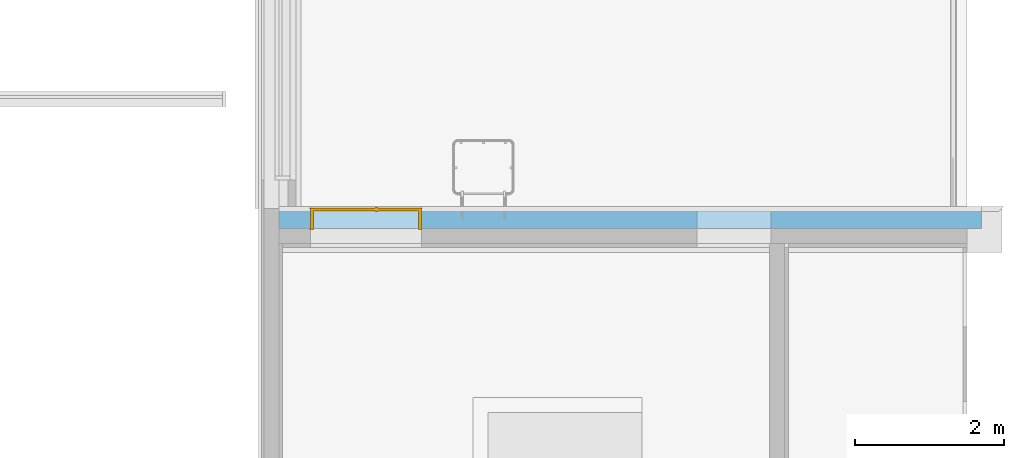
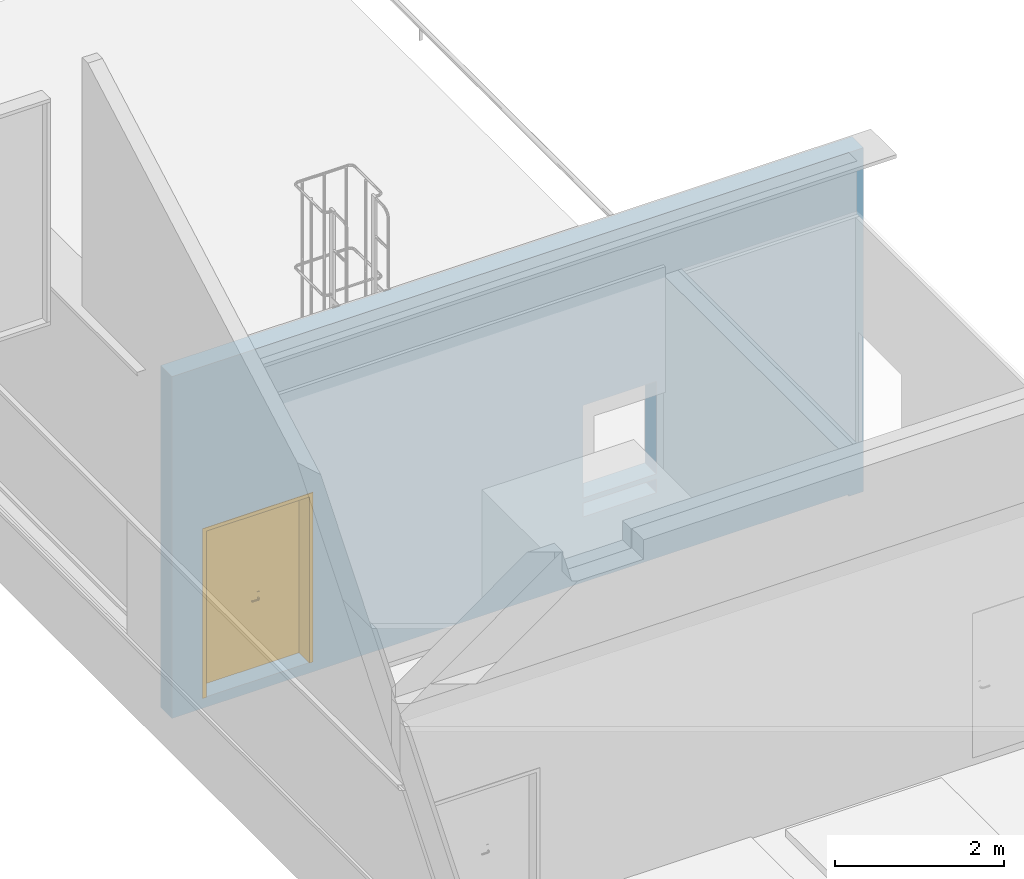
# One storey, part 39 of 44: 1 door, 4 openings, plus 1 element that does not belong to this part.
"""IFC2X3 building model written with IfcOpenShell, lengths in centimetres."""

import ifcopenshell
import ifcopenshell.guid

model = None  # the IFC model being written
_history = None  # IfcOwnerHistory: only IFC2X3 demands one
_inside = {}  # id of a spatial element -> (the spatial element, [elements in it])
_under = {}  # id of a project, library or spatial element -> (it, [spatial elements below it])
_declared = {}  # id of a project -> (the project, [libraries it declares])
_typed = {}  # id of a type object -> (the type object, [elements of that type])
_made_of = {}  # id of a material, layer set ... -> (it, [elements and type objects made of it])


def new_model(schema):
    """Start an empty IFC model of exactly this schema.

    Asked for "IFC4X3", IfcOpenShell would pick the latest addendum, in which some entities
    have other attributes; the version numbers below select the first issue.
    IFC2X3 requires an IfcOwnerHistory on every rooted entity: one is made here for all.
    """
    global model, _history
    if schema == "IFC4X3":
        model = ifcopenshell.file(schema_version=(4, 3, 0, 0))
    else:
        model = ifcopenshell.file(schema=schema)
    _inside.clear()
    _under.clear()
    _declared.clear()
    _typed.clear()
    _made_of.clear()
    _history = None
    if model.schema == "IFC2X3":
        org = make("IfcOrganization", Name="unknown")
        user = make(
            "IfcPersonAndOrganization",
            ThePerson=make("IfcPerson", FamilyName="unknown"),
            TheOrganization=org,
        )
        app = make(
            "IfcApplication",
            ApplicationDeveloper=org,
            Version="unknown",
            ApplicationFullName="unknown",
            ApplicationIdentifier="unknown",
        )
        _history = make(
            "IfcOwnerHistory",
            OwningUser=user,
            OwningApplication=app,
            ChangeAction="ADDED",
            CreationDate=0,
        )
    return model


def make(cls, **values):
    """One entity of the class cls with the attributes given. An attribute that is None is left unset."""
    return model.create_entity(
        cls, **{name: value for name, value in values.items() if value is not None}
    )


def entity(cls, *values):
    """Any entity or typed value of the class cls, its attributes in the order of the schema. None: left unset."""
    e = model.create_entity(cls)
    for i, value in enumerate(values):
        if value is not None:
            e[i] = value
    return e


def rooted(cls, **values):
    """An entity with a GlobalId (a new one), such as an element, a storey or a relation."""
    return make(cls, GlobalId=ifcopenshell.guid.new(), OwnerHistory=_history, **values)


def si_unit(unit_type, name, prefix=None):
    """IfcSIUnit, for example si_unit("LENGTHUNIT", "METRE", prefix="MILLI")."""
    return make("IfcSIUnit", UnitType=unit_type, Prefix=prefix, Name=name)


def converted_unit(unit_type, name, factor, base, dimensions=None, offset=None):
    """IfcConversionBasedUnit, such as the inch: factor (a typed value) times the base unit."""
    return make(
        "IfcConversionBasedUnit"
        if offset is None
        else "IfcConversionBasedUnitWithOffset",
        ConversionOffset=offset,
        Dimensions=None
        if dimensions is None
        else entity("IfcDimensionalExponents", *dimensions),
        UnitType=unit_type,
        Name=name,
        ConversionFactor=make(
            "IfcMeasureWithUnit", ValueComponent=factor, UnitComponent=base
        ),
    )


def derived_unit(unit_type, elements):
    """IfcDerivedUnit: a product of units, each with its exponent."""
    return make(
        "IfcDerivedUnit",
        Elements=[
            make("IfcDerivedUnitElement", Unit=unit, Exponent=power)
            for unit, power in elements
        ],
        UnitType=unit_type,
    )


def assignment(units):
    """IfcUnitAssignment: the units of a project."""
    return None if units is None else make("IfcUnitAssignment", Units=units)


def point(xyz):
    """IfcCartesianPoint."""
    return None if xyz is None else make("IfcCartesianPoint", Coordinates=xyz)


def direction(xyz):
    """IfcDirection."""
    return None if xyz is None else make("IfcDirection", DirectionRatios=xyz)


def frame(location, z_axis=None, x_axis=None):
    """IfcAxis2Placement3D, a coordinate frame: its origin and axes. An axis left out is left unset."""
    return make(
        "IfcAxis2Placement3D",
        Location=point(location),
        Axis=direction(z_axis),
        RefDirection=direction(x_axis),
    )


def frame_2d(location, x_axis=None):
    """IfcAxis2Placement2D, a coordinate frame in the plane: its origin and x axis."""
    return make(
        "IfcAxis2Placement2D", Location=point(location), RefDirection=direction(x_axis)
    )


def origin():
    """The frame at (0, 0, 0) with its axes left unset."""
    return frame((0.0, 0.0, 0.0))


def origin_2d_with_axis():
    """The frame at (0, 0) in the plane with the x axis (1, 0) written out."""
    return frame_2d((0.0, 0.0), x_axis=(1.0, 0.0))


def place(relative_to, where):
    """IfcLocalPlacement: puts the frame where relative to a parent placement (None: the world)."""
    return make(
        "IfcLocalPlacement", PlacementRelTo=relative_to, RelativePlacement=where
    )


def context(
    kind, dimensions, precision=None, world=None, true_north=None, identifier=None
):
    """IfcGeometricRepresentationContext, for example the 3D "Model" context."""
    return make(
        "IfcGeometricRepresentationContext",
        ContextIdentifier=identifier,
        ContextType=kind,
        CoordinateSpaceDimension=dimensions,
        Precision=precision,
        WorldCoordinateSystem=world,
        TrueNorth=true_north,
    )


def subcontext(parent, identifier, kind, view, scale=None):
    """IfcGeometricRepresentationSubContext, for example "Body" below "Model"."""
    return make(
        "IfcGeometricRepresentationSubContext",
        ContextIdentifier=identifier,
        ContextType=kind,
        ParentContext=parent,
        TargetScale=scale,
        TargetView=view,
    )


def project(units=None, contexts=None):
    """IfcProject with its units and contexts."""
    return rooted(
        "IfcProject",
        Name="project",
        RepresentationContexts=contexts,
        UnitsInContext=assignment(units),
    )


def spatial(cls, under=None, at=None, **own):
    """A site, building, storey or space (cls), placed at a placement, below another one or the project."""
    s = rooted(cls, ObjectPlacement=at, **own)
    if under is not None:
        _under.setdefault(under.id(), (under, []))[1].append(s)
    return s


def polyline(points):
    """IfcPolyline through the points."""
    return make("IfcPolyline", Points=[point(p) for p in points])


def profile(cls, at=None, kind="AREA", **sizes):
    """A parametric profile (cls). Its sizes go by their IFC names, for example OverallWidth=200.0."""
    return make(cls, ProfileType=kind, Position=at, **sizes)


def rectangle(**sizes):
    """IfcRectangleProfileDef."""
    return profile("IfcRectangleProfileDef", **sizes)


def extrude(swept, where, along, depth):
    """IfcExtrudedAreaSolid: the profile swept, set in the frame where, extruded along a direction by depth."""
    return make(
        "IfcExtrudedAreaSolid",
        SweptArea=swept,
        Position=where,
        ExtrudedDirection=direction(along),
        Depth=depth,
    )


def clip(a, b, op="DIFFERENCE"):
    """IfcBooleanClippingResult: the solid a cut by the half space b."""
    return make(
        "IfcBooleanClippingResult", Operator=op, FirstOperand=a, SecondOperand=b
    )


def bounded_halfspace(plane, agree, where, boundary):
    """IfcPolygonalBoundedHalfSpace: a half space limited to a polygon's prism."""
    return make(
        "IfcPolygonalBoundedHalfSpace",
        BaseSurface=make("IfcPlane", Position=plane),
        AgreementFlag=agree,
        Position=where,
        PolygonalBoundary=boundary,
    )


def faces_of(points, faces, orient=None, outer=None):
    """IfcFace entities. A face is a list of loops; a loop is a list of indices into points, from 0.

    orient and outer hold one flag for each loop. By default every Orientation is true, the
    first loop of a face is its IfcFaceOuterBound and the others are IfcFaceBound.
    """
    made = []
    for i, loops in enumerate(faces):
        bounds = []
        for j, loop in enumerate(loops):
            is_outer = j == 0 if outer is None else outer[i][j]
            bounds.append(
                make(
                    "IfcFaceOuterBound" if is_outer else "IfcFaceBound",
                    Bound=make("IfcPolyLoop", Polygon=[points[k] for k in loop]),
                    Orientation=True if orient is None else orient[i][j],
                )
            )
        made.append(make("IfcFace", Bounds=bounds))
    return made


def faceted_brep(points, faces, orient=None, outer=None, voids=None):
    """IfcFacetedBrep: a solid bounded by flat faces; with voids (closed shells), ...WithVoids."""
    shared = [point(p) for p in points]
    hull = make("IfcClosedShell", CfsFaces=faces_of(shared, faces, orient, outer))
    if voids is None:
        return make("IfcFacetedBrep", Outer=hull)
    return make(
        "IfcFacetedBrepWithVoids",
        Outer=hull,
        Voids=[
            make(cls, CfsFaces=faces_of(shared, fs, o, b)) for cls, fs, o, b in voids
        ],
    )


def shape(context_of_items, identifier, shape_type, items):
    """IfcShapeRepresentation: the items that make up one representation, for example the "Body"."""
    return make(
        "IfcShapeRepresentation",
        ContextOfItems=context_of_items,
        RepresentationIdentifier=identifier,
        RepresentationType=shape_type,
        Items=items,
    )


def source(mapping_origin, context_of_items, identifier, shape_type, items):
    """IfcRepresentationMap: a shape defined once, which mapped items show again and again."""
    return make(
        "IfcRepresentationMap",
        MappingOrigin=mapping_origin,
        MappedRepresentation=shape(context_of_items, identifier, shape_type, items),
    )


def transform(
    local_origin,
    x_axis=None,
    y_axis=None,
    z_axis=None,
    scale=None,
    scale2=None,
    scale3=None,
    uniform=True,
):
    """IfcCartesianTransformationOperator3D, or its non-uniform kind. x_axis, y_axis, z_axis: its Axis1, 2, 3."""
    if uniform:
        return make(
            "IfcCartesianTransformationOperator3D",
            Axis1=direction(x_axis),
            Axis2=direction(y_axis),
            LocalOrigin=point(local_origin),
            Scale=scale,
            Axis3=direction(z_axis),
        )
    return make(
        "IfcCartesianTransformationOperator3DnonUniform",
        Axis1=direction(x_axis),
        Axis2=direction(y_axis),
        LocalOrigin=point(local_origin),
        Scale=scale,
        Axis3=direction(z_axis),
        Scale2=scale2,
        Scale3=scale3,
    )


def mapped(mapping_source, mapping_target):
    """IfcMappedItem: shows the shape of a source again, moved by a transform."""
    return make(
        "IfcMappedItem", MappingSource=mapping_source, MappingTarget=mapping_target
    )


def material(Name=None, Category=None):
    """IfcMaterial."""
    return make("IfcMaterial", Name=Name, Category=Category)


def material_list(materials):
    """IfcMaterialList."""
    return make("IfcMaterialList", Materials=materials)


def layer(
    of_material, thickness, ventilated=None, Name=None, Category=None, Priority=None
):
    """IfcMaterialLayer: one layer of a wall or slab, of a material (None: an air gap)."""
    return make(
        "IfcMaterialLayer",
        Material=of_material,
        LayerThickness=thickness,
        IsVentilated=ventilated,
        Name=Name,
        Category=Category,
        Priority=Priority,
    )


def layer_set(layers, Name=None):
    """IfcMaterialLayerSet."""
    return make("IfcMaterialLayerSet", MaterialLayers=layers, LayerSetName=Name)


def layer_usage(for_layer_set, set_direction, sense, offset, extent=None):
    """IfcMaterialLayerSetUsage: how a layer set lies in its element."""
    return make(
        "IfcMaterialLayerSetUsage",
        ForLayerSet=for_layer_set,
        LayerSetDirection=set_direction,
        DirectionSense=sense,
        OffsetFromReferenceLine=offset,
        ReferenceExtent=extent,
    )


def made_of(thing, what):
    """Note that an element or type object is made of a material, layer set ...; save() writes the relation."""
    if what is not None:
        _made_of.setdefault(what.id(), (what, []))[1].append(thing)
    return thing


def type_object(cls, material=None, **own):
    """A type object (cls), such as IfcWallType, which elements share."""
    return made_of(rooted(cls, **own), material)


def type_shapes(of_type, sources):
    """Give a type object the sources (RepresentationMaps) that its elements show as mapped items."""
    of_type.RepresentationMaps = sources


def element(
    cls,
    number,
    at=None,
    inside=None,
    cuts=None,
    type_object=None,
    material=None,
    context=None,
    identifier="Body",
    shape_type=None,
    held_by="IfcProductDefinitionShape",
    body=None,
    shapes=None,
    **own,
):
    """One element of the class cls, such as IfcWall. Its Tag is "e" and its number.

    at: its placement. inside: the storey or other place that contains it. cuts: it is an
    opening in that element (IfcRelVoidsElement). A single representation is given by context,
    identifier, shape_type and body (its items); several are given by shapes. held_by: the class
    of the entity that holds the representations. save() writes the other relations.
    """
    e = rooted(cls, Tag="e%d" % number, ObjectPlacement=at, **own)
    if body is not None:
        shapes = [shape(context, identifier, shape_type, body)]
    if shapes is not None:
        e.Representation = make(held_by, Representations=shapes)
    if inside is not None:
        _inside.setdefault(inside.id(), (inside, []))[1].append(e)
    if cuts is not None:
        rooted(
            "IfcRelVoidsElement", RelatingBuildingElement=cuts, RelatedOpeningElement=e
        )
    if type_object is not None:
        _typed.setdefault(type_object.id(), (type_object, []))[1].append(e)
    return made_of(e, material)


def fill(opening, filler):
    """IfcRelFillsElement: the door or window that sits in an opening."""
    return rooted(
        "IfcRelFillsElement",
        RelatingOpeningElement=opening,
        RelatedBuildingElement=filler,
    )


def aggregate(whole, parts):
    """IfcRelAggregates: a whole, such as a stair, and the parts it consists of."""
    return rooted("IfcRelAggregates", RelatingObject=whole, RelatedObjects=parts)


def save(model, path):
    """Write the relations noted so far, then the file.

    IfcRelAggregates (storeys below a building ...), IfcRelContainedInSpatialStructure (elements
    in a storey), IfcRelDefinesByType, IfcRelAssociatesMaterial and IfcRelDeclares: one each for
    every whole, place, type object, material and project.
    """
    for whole, parts in _under.values():
        aggregate(whole, parts)
    for where, things in _inside.values():
        rooted(
            "IfcRelContainedInSpatialStructure",
            RelatedElements=things,
            RelatingStructure=where,
        )
    for kind, things in _typed.values():
        rooted("IfcRelDefinesByType", RelatedObjects=things, RelatingType=kind)
    for what, things in _made_of.values():
        rooted("IfcRelAssociatesMaterial", RelatedObjects=things, RelatingMaterial=what)
    for by, libraries in _declared.values():
        rooted("IfcRelDeclares", RelatingContext=by, RelatedDefinitions=libraries)
    model.write(path)


model = new_model("IFC2X3")

# Units and contexts
model_context = context("Model", 3, precision=0.001, world=origin(), true_north=direction((6.12303176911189e-17, 1.0)))
body_context = subcontext(model_context, "Body", "Model", "MODEL_VIEW")
ifc_project = project(units=[si_unit("LENGTHUNIT", "METRE", prefix="CENTI"), si_unit("AREAUNIT", "SQUARE_METRE"), si_unit("VOLUMEUNIT", "CUBIC_METRE"), converted_unit("PLANEANGLEUNIT", "DEGREE", entity("IfcRatioMeasure", 0.0174532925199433), si_unit("PLANEANGLEUNIT", "RADIAN"), dimensions=[0, 0, 0, 0, 0, 0, 0]), si_unit("MASSUNIT", "GRAM", prefix="KILO"), si_unit("TIMEUNIT", "SECOND"), si_unit("FREQUENCYUNIT", "HERTZ"), si_unit("THERMODYNAMICTEMPERATUREUNIT", "DEGREE_CELSIUS"), derived_unit("THERMALTRANSMITTANCEUNIT", [(si_unit("MASSUNIT", "GRAM", prefix="KILO"), 1), (si_unit("THERMODYNAMICTEMPERATUREUNIT", "KELVIN"), -1), (si_unit("TIMEUNIT", "SECOND"), -3)]), derived_unit("VOLUMETRICFLOWRATEUNIT", [(si_unit("LENGTHUNIT", "METRE"), 3), (si_unit("TIMEUNIT", "SECOND"), -1)]), si_unit("ELECTRICCURRENTUNIT", "AMPERE"), si_unit("ELECTRICVOLTAGEUNIT", "VOLT"), si_unit("POWERUNIT", "WATT"), si_unit("FORCEUNIT", "NEWTON", prefix="KILO"), si_unit("ILLUMINANCEUNIT", "LUX"), si_unit("LUMINOUSFLUXUNIT", "LUMEN"), si_unit("LUMINOUSINTENSITYUNIT", "CANDELA"), derived_unit("USERDEFINED", [(si_unit("MASSUNIT", "GRAM", prefix="KILO"), -1), (si_unit("LENGTHUNIT", "METRE"), -2), (si_unit("TIMEUNIT", "SECOND"), 3), (si_unit("LUMINOUSFLUXUNIT", "LUMEN"), 1)]), derived_unit("LINEARVELOCITYUNIT", [(si_unit("LENGTHUNIT", "METRE"), 1), (si_unit("TIMEUNIT", "SECOND"), -1)]), si_unit("PRESSUREUNIT", "PASCAL"), derived_unit("USERDEFINED", [(si_unit("LENGTHUNIT", "METRE"), -2), (si_unit("MASSUNIT", "GRAM", prefix="KILO"), 1), (si_unit("TIMEUNIT", "SECOND"), -2)])], contexts=[model_context])

# Site, building, storey
site_placement = place(None, frame((8.62739174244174, -249.285249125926, 0.0)))
site = spatial("IfcSite", under=ifc_project, at=site_placement, Name="Default", CompositionType="ELEMENT")
building_placement = place(site_placement, origin())
building = spatial("IfcBuilding", under=site, at=building_placement, CompositionType="ELEMENT")
storey_placement = place(building_placement, frame((0.0, 0.0, 343.0)))
storey = spatial("IfcBuildingStorey", under=building, at=storey_placement, Name="R+1", CompositionType="ELEMENT", Elevation=343.0)

# Wall, openings, door
ifc_material_1 = material(Name="Tôle/Doublage(PROJET)")
ifc_layer_1 = layer(ifc_material_1, 4.0)
ifc_material_2 = material(Name="Laine minérale")
ifc_layer_2 = layer(ifc_material_2, 23.0)
ifc_layer_set = layer_set([ifc_layer_1, ifc_layer_2], Name="Mur de base:MET PROJET 4 + ISO 23")
ifc_layer_usage = layer_usage(ifc_layer_set, "AXIS2", "POSITIVE", -13.5)
wall_type = type_object("IfcWallType", Name="Mur de base:MET PROJET 4 + ISO 23", PredefinedType="NOTDEFINED")
wall_placement = place(storey_placement, frame((3998.90482781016, 6128.4802081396, 15.0881867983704), z_axis=(0.0, 0.0, 1.0), x_axis=(-1.0, 0.0, 0.0)))
wall = element("IfcWallStandardCase", 1, at=wall_placement, inside=storey, type_object=wall_type, material=ifc_layer_usage, Name="Mur de base:MET PROJET 4 + ISO 23", ObjectType="Mur de base:MET PROJET 4 + ISO 23", context=body_context, shape_type="Clipping", body=[
    clip(clip(extrude(rectangle(XDim=945.0000000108, YDim=27.0000000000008, at=frame_2d((472.5000000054, 0.0), x_axis=(-1.0, 0.0))), origin(), (0.0, 0.0, 1.0), 496.81181320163), bounded_halfspace(frame((20.0, -13.4999999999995, 2.91181320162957), z_axis=(0.0, 0.0, 1.0), x_axis=(-1.0, 0.0, 0.0)), True, frame((20.0, -13.4999999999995, 2.91181320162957), z_axis=(0.0, 0.0, 1.0), x_axis=(-1.0, 0.0, 0.0)), polyline([(0.0, 0.0), (-925.0, 0.0), (-925.0, -27.0), (0.0, -27.0), (0.0, 0.0)]))), bounded_halfspace(frame((20.0, 13.5000000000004, 2.91181320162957), z_axis=(-1.0, 0.0, 0.0), x_axis=(0.0, -1.0, 0.0)), True, frame((20.0, 13.5000000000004, 2.91181320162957), z_axis=(-1.0, 0.0, 0.0), x_axis=(0.0, -1.0, 0.0)), polyline([(0.0, 0.0), (0.0, -2.91181320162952), (27.0, -2.91181320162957), (27.0, 0.0), (0.0, 0.0)]))),
])
opening_1_placement = place(wall_placement, origin())
element("IfcOpeningElement", 2, at=opening_1_placement, cuts=wall, Name="Mur de base:MET PROJET 4 + ISO 23", ObjectType="Opening", context=body_context, shape_type="SweptSolid", body=[
    extrude(rectangle(XDim=133.873048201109, YDim=99.9999999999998, at=origin_2d_with_axis()), frame((333.0, -138.9, 191.463513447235), z_axis=(0.0, 1.0, 0.0), x_axis=(0.0, 0.0, -1.0)), (0.0, 0.0, 1.0), 304.8),
])
opening_2_placement = place(wall_placement, origin())
element("IfcOpeningElement", 3, at=opening_2_placement, cuts=wall, Name="Mur de base:MET PROJET 4 + ISO 23", ObjectType="Opening", context=body_context, shape_type="SweptSolid", body=[
    extrude(rectangle(XDim=127.20110840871, YDim=99.9999999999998, at=frame_2d((5.32907051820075e-14, 0.0), x_axis=(1.0, 0.0))), frame((333.0, -118.899999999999, 194.799483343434), z_axis=(0.0, 1.0, 0.0), x_axis=(0.0, 0.0, -1.0)), (0.0, 0.0, 1.0), 304.8),
])
opening_3_placement = place(wall_placement, origin())
element("IfcOpeningElement", 4, at=opening_3_placement, cuts=wall, Name="Mur de base:MET PROJET 4 + ISO 23", ObjectType="Opening", context=body_context, shape_type="SweptSolid", body=[
    extrude(rectangle(XDim=20.0000000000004, YDim=99.9999999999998, at=frame_2d((-2.66453525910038e-14, 0.0), x_axis=(1.0, 0.0))), frame((333.0, -138.9, 107.417029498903), z_axis=(0.0, 1.0, 0.0), x_axis=(0.0, 0.0, -1.0)), (0.0, 0.0, 1.0), 304.8),
])
opening_4_placement = place(wall_placement, frame((902.499999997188, 13.5, 17.9118132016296)))
opening_4 = element("IfcOpeningElement", 5, at=opening_4_placement, cuts=wall, Name="Tierce(R)_bois_mu:143 x 241 cm:1", ObjectType="Opening", context=body_context, shape_type="SweptSolid", body=[
    extrude(rectangle(XDim=244.0, YDim=149.0, at=frame_2d((122.0, 74.4999999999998), x_axis=(1.0, 0.0))), frame((0.0, 0.0, 0.0), z_axis=(0.0, -1.0, 0.0), x_axis=(0.0, 0.0, 1.0)), (0.0, 0.0, 1.0), 27.0),
])
ifc_material_3 = material(Name="Porte - Poignée")
ifc_material_4 = material(Name="Porte - Cadre")
ifc_material_5 = material(Name="Porte - Panneau")
ifc_material_list_1 = material_list([ifc_material_3, ifc_material_4, ifc_material_5])
ifc_material_list_2 = material_list([ifc_material_3, ifc_material_4, ifc_material_5])
door_style = type_object("IfcDoorStyle", Name="143 x 241 cm", ConstructionType="NOTDEFINED", OperationType="NOTDEFINED", ParameterTakesPrecedence=False, Sizeable=False, material=ifc_material_list_2)
shared_shape = source(origin(), body_context, "Body", "Brep", [
    faceted_brep([(60.2974701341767, 3.69999999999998, 100.778044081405), (59.8999999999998, 3.69999999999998, 100.699999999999), (59.8999999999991, 3.69999999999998, 99.2999999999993), (60.2974701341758, 3.69999999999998, 99.2219559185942), (60.7025298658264, 3.69999999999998, 99.2219559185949), (61.1000000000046, 3.69999999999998, 99.3000000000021), (61.100000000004, 3.69999999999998, 100.699999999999), (60.7025298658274, 3.69999999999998, 100.778044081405), (61.1000000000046, 5.94852045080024, 99.3000000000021), (61.1000000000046, 5.94852045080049, 100.699999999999), (60.7025298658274, 6.1131579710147, 100.778044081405), (62.0838906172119, 7.49451872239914, 100.778044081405), (61.916109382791, 7.89957845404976, 100.778044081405), (60.2974701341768, 6.2809392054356, 100.778044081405), (71.0684749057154, 6.84673156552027, 100.778044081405), (71.3548953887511, 7.13315204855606, 100.778044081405), (70.5884689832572, 7.89957845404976, 100.778044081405), (70.4206877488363, 7.49451872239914, 100.778044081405), (59.8999999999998, 6.44557672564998, 100.699999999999), (59.8999999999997, 6.44557672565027, 99.2999999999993), (60.2974701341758, 6.28093920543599, 99.2219559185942), (61.9161093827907, 7.8995784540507, 99.2219559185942), (62.0838906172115, 7.49451872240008, 99.2219559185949), (60.7025298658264, 6.11315797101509, 99.2219559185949), (71.3548953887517, 7.1331520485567, 99.2219559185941), (71.068474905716, 6.84673156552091, 99.2219559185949), (70.4206877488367, 7.49451872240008, 99.2219559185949), (70.5884689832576, 7.8995784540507, 99.2219559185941), (62.2485281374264, 7.09704858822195, 99.3000000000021), (62.2485281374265, 7.09704858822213, 100.699999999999), (61.7514718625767, 8.29704858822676, 100.699999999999), (61.7514718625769, 8.29704858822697, 99.2999999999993), (66.2522904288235, 7.09704858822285, 99.3000000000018), (70.2560502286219, 7.09704858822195, 99.3000000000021), (70.2560502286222, 7.09704858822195, 100.699999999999), (66.2522891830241, 7.09704858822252, 100.699999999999), (66.2522891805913, 7.71249275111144, 100.787811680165), (70.7531065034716, 8.29704858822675, 100.699999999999), (66.7600577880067, 8.29704858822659, 100.699999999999), (70.7531065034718, 8.29704858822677, 99.2999999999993), (65.7445206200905, 8.29704858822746, 99.2999999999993), (66.2522892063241, 7.71249274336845, 99.2121883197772), (70.7874210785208, 6.56567773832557, 99.3000000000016), (71.6359492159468, 7.41420587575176, 99.2999999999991), (71.6359492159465, 7.4142058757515, 100.699999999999), (70.7874210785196, 6.5656777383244, 100.699999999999)], [[[0, 1, 2, 3, 4, 5, 6, 7]], [[6, 5, 8, 9]], [[9, 10, 7, 6]], [[10, 11, 12, 13, 0, 7]], [[14, 15, 16, 17]], [[13, 18, 1, 0]], [[2, 1, 18, 19]], [[19, 20, 3, 2]], [[20, 21, 22, 23, 4, 3]], [[24, 25, 26, 27]], [[23, 8, 5, 4]], [[9, 8, 28, 29]], [[29, 11, 10, 9]], [[12, 30, 18, 13]], [[19, 18, 30, 31]], [[31, 21, 20, 19]], [[22, 28, 8, 23]], [[29, 28, 32, 33, 34, 35]], [[11, 35, 36]], [[16, 37, 38]], [[30, 12, 38]], [[38, 12, 36]], [[36, 35, 17]], [[17, 16, 36]], [[35, 11, 29]], [[34, 17, 35]], [[11, 36, 12]], [[38, 36, 16]], [[31, 30, 38, 37, 39, 40]], [[40, 41, 21]], [[41, 40, 27]], [[21, 31, 40]], [[39, 27, 40]], [[41, 32, 22]], [[22, 21, 41]], [[26, 32, 41]], [[28, 22, 32]], [[32, 26, 33]], [[26, 41, 27]], [[42, 25, 24, 43, 44, 15, 14, 45]], [[34, 33, 42, 45]], [[45, 14, 17, 34]], [[15, 44, 37, 16]], [[39, 37, 44, 43]], [[43, 24, 27, 39]], [[25, 42, 33, 26]]]),
    faceted_brep([(60.2974701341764, -1.30000000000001, 100.778044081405), (60.702529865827, -1.30000000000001, 100.778044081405), (61.1000000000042, -1.30000000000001, 100.699999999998), (61.1000000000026, -1.30000000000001, 99.3000000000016), (60.7025298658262, -1.30000000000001, 99.2219559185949), (60.2974701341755, -1.30000000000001, 99.2219559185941), (59.8999999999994, -1.30000000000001, 99.2999999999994), (59.8999999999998, -1.30000000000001, 100.699999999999), (59.8999999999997, -4.06509507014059, 100.699999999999), (60.2974701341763, -3.90045754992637, 100.778044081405), (61.9023585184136, -5.50534593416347, 100.778044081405), (62.0701397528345, -5.10028620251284, 100.778044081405), (60.702529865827, -3.73267631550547, 100.778044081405), (71.3521810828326, -4.73891952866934, 100.778044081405), (71.0657605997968, -4.4524990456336, 100.778044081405), (70.4179734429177, -5.10028620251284, 100.778044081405), (70.5857546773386, -5.50534593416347, 100.778044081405), (61.1000000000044, -3.56803879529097, 100.699999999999), (61.1000000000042, -3.56803879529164, 99.3000000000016), (60.7025298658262, -3.7326763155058, 99.2219559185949), (62.0701397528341, -5.10028620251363, 99.2219559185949), (61.9023585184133, -5.50534593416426, 99.2219559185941), (60.2974701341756, -3.9004575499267, 99.2219559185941), (71.0657605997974, -4.45249904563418, 99.2219559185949), (71.3521810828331, -4.73891952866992, 99.2219559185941), (70.5857546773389, -5.50534593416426, 99.2219559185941), (70.417973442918, -5.10028620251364, 99.2219559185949), (59.8999999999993, -4.06509507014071, 99.2999999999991), (61.7377209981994, -5.90281606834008, 100.699999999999), (62.234777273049, -4.70281606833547, 100.699999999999), (62.2347772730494, -4.70281606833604, 99.3000000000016), (61.7377209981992, -5.90281606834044, 99.2999999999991), (65.730769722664, -5.90281606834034, 100.699999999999), (66.2440566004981, -5.31828027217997, 100.787811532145), (70.7503921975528, -5.90281606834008, 100.699999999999), (66.2440565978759, -4.70281606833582, 100.699999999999), (70.2533359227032, -4.70281606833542, 100.699999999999), (70.2533359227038, -4.70281606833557, 99.3000000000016), (66.2440563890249, -4.70281606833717, 99.3000000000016), (66.2440565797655, -5.31828027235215, 99.2121884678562), (70.7503921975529, -5.90281606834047, 99.2999999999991), (66.7573433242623, -5.90281606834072, 99.2999999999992), (70.7847067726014, -4.1714452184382, 100.699999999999), (71.6332349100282, -5.01997335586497, 100.699999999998), (71.6332349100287, -5.01997335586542, 99.2999999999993), (70.7847067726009, -4.17144521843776, 99.3000000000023)], [[[0, 1, 2, 3, 4, 5, 6, 7]], [[8, 9, 0, 7]], [[9, 10, 11, 12, 1, 0]], [[13, 14, 15, 16]], [[12, 17, 2, 1]], [[3, 2, 17, 18]], [[18, 19, 4, 3]], [[19, 20, 21, 22, 5, 4]], [[23, 24, 25, 26]], [[22, 27, 6, 5]], [[7, 6, 27, 8]], [[28, 10, 9, 8]], [[11, 29, 17, 12]], [[18, 17, 29, 30]], [[30, 20, 19, 18]], [[21, 31, 27, 22]], [[8, 27, 31, 28]], [[32, 33, 10]], [[33, 32, 16]], [[10, 28, 32]], [[34, 16, 32]], [[33, 35, 11]], [[11, 10, 33]], [[15, 35, 33]], [[29, 11, 35]], [[35, 15, 36]], [[15, 33, 16]], [[30, 29, 35, 36, 37, 38]], [[20, 38, 39]], [[25, 40, 41]], [[31, 21, 41]], [[41, 21, 39]], [[39, 38, 26]], [[26, 25, 39]], [[38, 20, 30]], [[37, 26, 38]], [[20, 39, 21]], [[41, 39, 25]], [[28, 31, 41, 40, 34, 32]], [[42, 14, 13, 43, 44, 24, 23, 45]], [[43, 13, 16, 34]], [[14, 42, 36, 15]], [[37, 36, 42, 45]], [[45, 23, 26, 37]], [[24, 44, 40, 25]], [[34, 40, 44, 43]]]),
    faceted_brep([(61.5352761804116, 3.19999999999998, 86.6003983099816), (62.5000000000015, 3.19999999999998, 87.0), (62.5000000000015, 3.19999999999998, 108.0), (61.5352761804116, 3.19999999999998, 108.399601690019), (60.5000000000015, 3.19999999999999, 108.535898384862), (59.4647238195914, 3.19999999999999, 108.399601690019), (58.5000000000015, 3.19999999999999, 108.0), (58.5000000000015, 3.19999999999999, 87.0), (59.4647238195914, 3.19999999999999, 86.6003983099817), (60.5000000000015, 3.19999999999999, 86.4641016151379), (61.5352761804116, 3.69999999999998, 108.399601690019), (62.5000000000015, 3.69999999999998, 108.0), (62.5000000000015, 3.69999999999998, 87.0), (61.5352761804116, 3.69999999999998, 86.6003983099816), (60.5000000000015, 3.69999999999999, 86.4641016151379), (59.4647238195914, 3.69999999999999, 86.6003983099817), (58.5000000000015, 3.69999999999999, 87.0), (58.5000000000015, 3.69999999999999, 108.0), (59.4647238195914, 3.69999999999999, 108.399601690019), (60.5000000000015, 3.69999999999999, 108.535898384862)], [[[0, 1, 2, 3, 4, 5, 6, 7, 8, 9]], [[10, 11, 12, 13, 14, 15, 16, 17, 18, 19]], [[11, 10, 3, 2]], [[3, 10, 19, 4]], [[19, 18, 5, 4]], [[18, 17, 6, 5]], [[7, 6, 17, 16]], [[16, 15, 8, 7]], [[8, 15, 14, 9]], [[14, 13, 0, 9]], [[13, 12, 1, 0]], [[2, 1, 12, 11]]]),
    faceted_brep([(61.5352761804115, -1.30000000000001, 86.6003983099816), (62.5000000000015, -1.30000000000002, 87.0), (62.5000000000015, -1.30000000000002, 108.0), (61.5352761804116, -1.30000000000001, 108.399601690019), (60.5000000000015, -1.30000000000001, 108.535898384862), (59.4647238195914, -1.30000000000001, 108.399601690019), (58.5000000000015, -1.30000000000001, 108.0), (58.5000000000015, -1.30000000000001, 87.0), (59.4647238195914, -1.30000000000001, 86.6003983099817), (60.5000000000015, -1.30000000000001, 86.4641016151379), (61.5352761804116, -0.800000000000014, 108.399601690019), (62.5000000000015, -0.800000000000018, 108.0), (62.5000000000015, -0.800000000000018, 87.0), (61.5352761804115, -0.800000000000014, 86.6003983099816), (60.5000000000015, -0.800000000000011, 86.4641016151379), (59.4647238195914, -0.800000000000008, 86.6003983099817), (58.5000000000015, -0.800000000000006, 87.0), (58.5000000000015, -0.800000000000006, 108.0), (59.4647238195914, -0.800000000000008, 108.399601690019), (60.5000000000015, -0.800000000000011, 108.535898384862)], [[[0, 1, 2, 3, 4, 5, 6, 7, 8, 9]], [[10, 11, 12, 13, 14, 15, 16, 17, 18, 19]], [[16, 15, 8, 7]], [[8, 15, 14, 9]], [[14, 13, 0, 9]], [[13, 12, 1, 0]], [[2, 1, 12, 11]], [[11, 10, 3, 2]], [[3, 10, 19, 4]], [[19, 18, 5, 4]], [[18, 17, 6, 5]], [[7, 6, 17, 16]]]),
    faceted_brep([(149.0, 0.0, 0.0), (150.0, 0.0, 0.0), (150.0, -0.799999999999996, 0.0), (146.0, -0.799999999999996, 0.0), (146.0, 3.20000000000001, 0.0), (145.0, 3.20000000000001, 0.0), (145.0, 27.8000000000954, 0.0), (150.0, 27.8000000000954, 0.0), (150.0, 27.0, 0.0), (149.0, 27.0, 0.0), (149.0, 27.0, 244.0), (149.0, 0.0, 244.0), (150.0, 27.0, 245.0), (-1.0, 27.0, 245.0), (-1.0, 27.0, 0.0), (0.0, 27.0, 0.0), (0.0, 27.0, 244.0), (150.0, 27.8000000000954, 245.0), (145.0, 27.8000000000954, 240.0), (4.0, 27.8000000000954, 240.0), (4.0, 27.8000000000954, 0.0), (-1.0, 27.8000000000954, 0.0), (-1.0, 27.8000000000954, 245.0), (145.0, 3.20000000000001, 240.0), (146.0, 3.20000000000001, 241.0), (3.0, 3.20000000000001, 241.0), (3.0, 3.20000000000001, 0.0), (4.0, 3.20000000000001, 0.0), (4.0, 3.20000000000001, 240.0), (146.0, -0.799999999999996, 241.0), (150.0, -0.799999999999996, 245.0), (-1.0, -0.799999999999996, 245.0), (-1.0, -0.799999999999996, 0.0), (3.0, -0.799999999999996, 0.0), (3.0, -0.799999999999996, 241.0), (150.0, 0.0, 245.0), (0.0, 0.0, 244.0), (0.0, 0.0, 0.0), (-1.0, 0.0, 0.0), (-1.0, 0.0, 245.0)], [[[0, 1, 2, 3, 4, 5, 6, 7, 8, 9]], [[9, 10, 11, 0]], [[8, 12, 13, 14, 15, 16, 10, 9]], [[7, 17, 12, 8]], [[6, 18, 19, 20, 21, 22, 17, 7]], [[5, 23, 18, 6]], [[4, 24, 25, 26, 27, 28, 23, 5]], [[3, 29, 24, 4]], [[2, 30, 31, 32, 33, 34, 29, 3]], [[1, 35, 30, 2]], [[0, 11, 36, 37, 38, 39, 35, 1]], [[16, 15, 37, 36]], [[37, 15, 14, 21, 20, 27, 26, 33, 32, 38]], [[22, 21, 14, 13]], [[28, 27, 20, 19]], [[34, 33, 26, 25]], [[39, 38, 32, 31]], [[10, 16, 36, 11]], [[17, 22, 13, 12]], [[23, 28, 19, 18]], [[29, 34, 25, 24]], [[35, 39, 31, 30]]]),
    faceted_brep([(3.0, -0.799999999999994, 241.0), (3.0, -0.799999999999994, 0.0), (55.0, -0.799999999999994, 0.0), (55.0, -0.799999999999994, 241.0), (3.0, 3.20000000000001, 241.0), (55.0, 3.20000000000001, 241.0), (55.0, 3.20000000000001, 0.0), (3.0, 3.20000000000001, 0.0)], [[[0, 1, 2, 3]], [[4, 5, 6, 7]], [[3, 5, 4, 0]], [[2, 6, 5, 3]], [[1, 7, 6, 2]], [[0, 4, 7, 1]]]),
    faceted_brep([(146.0, -0.799999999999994, 0.0), (146.0, -0.799999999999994, 241.0), (55.0, -0.799999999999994, 241.0), (55.0, -0.799999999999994, 0.0), (146.0, 3.20000000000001, 0.0), (55.0, 3.20000000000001, 0.0), (55.0, 3.20000000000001, 241.0), (146.0, 3.20000000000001, 241.0)], [[[0, 1, 2, 3]], [[4, 5, 6, 7]], [[3, 5, 4, 0]], [[2, 6, 5, 3]], [[1, 7, 6, 2]], [[0, 4, 7, 1]]]),
])
type_shapes(door_style, [shared_shape])
door_placement = place(opening_4_placement, frame((-149.0, -27.0, 0.0)))
door = element("IfcDoor", 6, at=door_placement, inside=storey, type_object=door_style, material=ifc_material_list_1, Name="Tierce(R)_bois_mu:143 x 241 cm", ObjectType="143 x 241 cm", OverallHeight=244.0, OverallWidth=149.0, context=body_context, shape_type="MappedRepresentation", body=[
    mapped(shared_shape, transform((0.0, 0.0, 0.0), scale=1.0)),
])
fill(opening_4, door)

save(model, "model.ifc")
